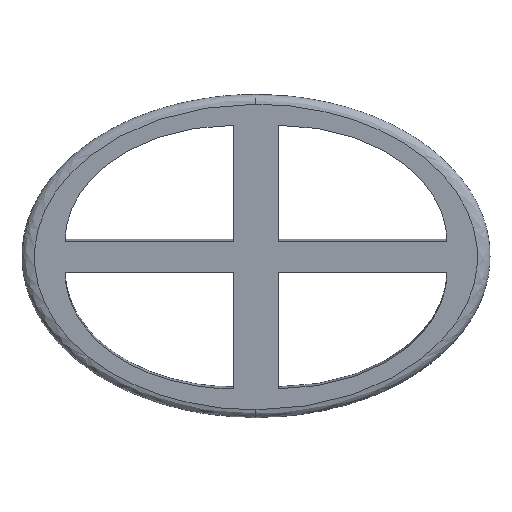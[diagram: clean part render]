
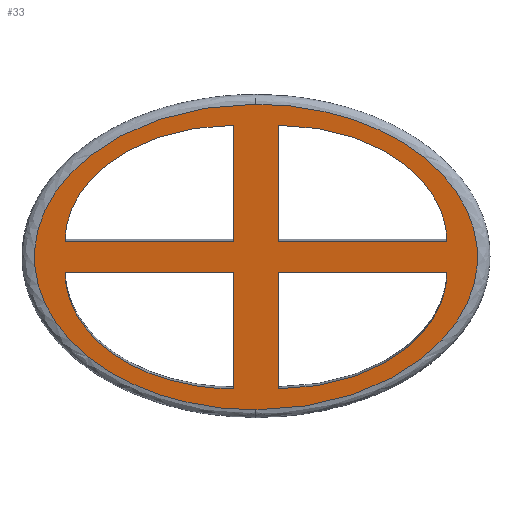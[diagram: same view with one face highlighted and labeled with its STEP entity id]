
A CAD part, front view. The second image highlights one B-rep face of the part: STEP entity #33.
In plain terms, the highlighted planar face has unit normal (-0.001, -0.994, -0.107).
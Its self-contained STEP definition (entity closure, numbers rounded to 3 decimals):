
#24=FACE_BOUND('',#70,.T.);
#25=FACE_BOUND('',#71,.T.);
#26=FACE_BOUND('',#72,.T.);
#27=FACE_BOUND('',#73,.T.);
#33=ADVANCED_FACE('',(#51,#24,#25,#26,#27),#308,.T.);
#51=FACE_OUTER_BOUND('',#69,.T.);
#69=EDGE_LOOP('',(#98,#99));
#70=EDGE_LOOP('',(#100,#101,#102));
#71=EDGE_LOOP('',(#103,#104,#105));
#72=EDGE_LOOP('',(#106,#107,#108));
#73=EDGE_LOOP('',(#109,#110,#111));
#98=ORIENTED_EDGE('',*,*,#197,.T.);
#99=ORIENTED_EDGE('',*,*,#231,.T.);
#100=ORIENTED_EDGE('',*,*,#204,.F.);
#101=ORIENTED_EDGE('',*,*,#189,.F.);
#102=ORIENTED_EDGE('',*,*,#188,.F.);
#103=ORIENTED_EDGE('',*,*,#190,.F.);
#104=ORIENTED_EDGE('',*,*,#208,.F.);
#105=ORIENTED_EDGE('',*,*,#191,.F.);
#106=ORIENTED_EDGE('',*,*,#192,.F.);
#107=ORIENTED_EDGE('',*,*,#215,.F.);
#108=ORIENTED_EDGE('',*,*,#193,.F.);
#109=ORIENTED_EDGE('',*,*,#225,.T.);
#110=ORIENTED_EDGE('',*,*,#194,.T.);
#111=ORIENTED_EDGE('',*,*,#195,.T.);
#188=EDGE_CURVE('',#279,#280,#232,.T.);
#189=EDGE_CURVE('',#280,#281,#233,.T.);
#190=EDGE_CURVE('',#283,#284,#234,.T.);
#191=EDGE_CURVE('',#284,#282,#235,.T.);
#192=EDGE_CURVE('',#286,#287,#236,.T.);
#193=EDGE_CURVE('',#287,#285,#237,.T.);
#194=EDGE_CURVE('',#288,#289,#238,.T.);
#195=EDGE_CURVE('',#289,#290,#239,.T.);
#197=EDGE_CURVE('',#303,#307,#259,.T.);
#204=EDGE_CURVE('',#281,#279,#261,.T.);
#208=EDGE_CURVE('',#282,#283,#265,.T.);
#215=EDGE_CURVE('',#285,#286,#269,.T.);
#225=EDGE_CURVE('',#290,#288,#271,.T.);
#231=EDGE_CURVE('',#307,#303,#277,.T.);
#232=B_SPLINE_CURVE_WITH_KNOTS('',1,(#1213,#1214),.UNSPECIFIED.,.F.,.F.,
(2,2),(6.283,6.783),.UNSPECIFIED.);
#233=B_SPLINE_CURVE_WITH_KNOTS('',1,(#1215,#1216),.UNSPECIFIED.,.F.,.F.,
(2,2),(6.783,7.783),.UNSPECIFIED.);
#234=B_SPLINE_CURVE_WITH_KNOTS('',1,(#1217,#1218),.UNSPECIFIED.,.F.,.F.,
(2,2),(5.142,6.142),.UNSPECIFIED.);
#235=B_SPLINE_CURVE_WITH_KNOTS('',1,(#1219,#1220),.UNSPECIFIED.,.F.,.F.,
(2,2),(6.142,6.642),.UNSPECIFIED.);
#236=B_SPLINE_CURVE_WITH_KNOTS('',1,(#1221,#1222),.UNSPECIFIED.,.F.,.F.,
(2,2),(6.142,7.142),.UNSPECIFIED.);
#237=B_SPLINE_CURVE_WITH_KNOTS('',1,(#1223,#1224),.UNSPECIFIED.,.F.,.F.,
(2,2),(7.142,7.642),.UNSPECIFIED.);
#238=B_SPLINE_CURVE_WITH_KNOTS('',1,(#1225,#1226),.UNSPECIFIED.,.F.,.F.,
(2,2),(0.,1.),.UNSPECIFIED.);
#239=B_SPLINE_CURVE_WITH_KNOTS('',1,(#1227,#1228),.UNSPECIFIED.,.F.,.F.,
(2,2),(1.,1.5),.UNSPECIFIED.);
#259=(
BOUNDED_CURVE()
B_SPLINE_CURVE(2,(#1234,#1235,#1236,#1237,#1238),.UNSPECIFIED.,.F.,.F.)
B_SPLINE_CURVE_WITH_KNOTS((3,2,3),(0.,1.571,3.142),
 .UNSPECIFIED.)
CURVE()
GEOMETRIC_REPRESENTATION_ITEM()
RATIONAL_B_SPLINE_CURVE((1.,0.707,1.,0.707,1.))
REPRESENTATION_ITEM('')
);
#261=(
BOUNDED_CURVE()
B_SPLINE_CURVE(2,(#1252,#1253,#1254),.UNSPECIFIED.,.F.,.F.)
B_SPLINE_CURVE_WITH_KNOTS((3,3),(7.783,9.354),
 .UNSPECIFIED.)
CURVE()
GEOMETRIC_REPRESENTATION_ITEM()
RATIONAL_B_SPLINE_CURVE((1.,0.707,1.))
REPRESENTATION_ITEM('')
);
#265=(
BOUNDED_CURVE()
B_SPLINE_CURVE(2,(#1262,#1263,#1264),.UNSPECIFIED.,.F.,.F.)
B_SPLINE_CURVE_WITH_KNOTS((3,3),(3.571,5.142),
 .UNSPECIFIED.)
CURVE()
GEOMETRIC_REPRESENTATION_ITEM()
RATIONAL_B_SPLINE_CURVE((1.,0.707,1.))
REPRESENTATION_ITEM('')
);
#269=(
BOUNDED_CURVE()
B_SPLINE_CURVE(2,(#1278,#1279,#1280),.UNSPECIFIED.,.F.,.F.)
B_SPLINE_CURVE_WITH_KNOTS((3,3),(4.571,6.142),
 .UNSPECIFIED.)
CURVE()
GEOMETRIC_REPRESENTATION_ITEM()
RATIONAL_B_SPLINE_CURVE((1.,0.707,1.))
REPRESENTATION_ITEM('')
);
#271=(
BOUNDED_CURVE()
B_SPLINE_CURVE(2,(#1300,#1301,#1302),.UNSPECIFIED.,.F.,.F.)
B_SPLINE_CURVE_WITH_KNOTS((3,3),(1.5,3.071),.UNSPECIFIED.)
CURVE()
GEOMETRIC_REPRESENTATION_ITEM()
RATIONAL_B_SPLINE_CURVE((1.,0.707,1.))
REPRESENTATION_ITEM('')
);
#277=(
BOUNDED_CURVE()
B_SPLINE_CURVE(2,(#1371,#1372,#1373,#1374,#1375),.UNSPECIFIED.,.F.,.F.)
B_SPLINE_CURVE_WITH_KNOTS((3,2,3),(3.142,4.712,6.283),
 .UNSPECIFIED.)
CURVE()
GEOMETRIC_REPRESENTATION_ITEM()
RATIONAL_B_SPLINE_CURVE((1.,0.707,1.,0.707,1.))
REPRESENTATION_ITEM('')
);
#279=VERTEX_POINT('',#1127);
#280=VERTEX_POINT('',#1128);
#281=VERTEX_POINT('',#1129);
#282=VERTEX_POINT('',#1130);
#283=VERTEX_POINT('',#1131);
#284=VERTEX_POINT('',#1132);
#285=VERTEX_POINT('',#1133);
#286=VERTEX_POINT('',#1134);
#287=VERTEX_POINT('',#1135);
#288=VERTEX_POINT('',#1136);
#289=VERTEX_POINT('',#1137);
#290=VERTEX_POINT('',#1138);
#303=VERTEX_POINT('',#1151);
#307=VERTEX_POINT('',#1155);
#308=PLANE('',#346);
#346=AXIS2_PLACEMENT_3D('',#552,#359,$);
#359=DIRECTION('',(-0.001,-0.994,-0.107));
#552=CARTESIAN_POINT('',(-35.975,-91.963,-15.423));
#1127=CARTESIAN_POINT('',(-3.681,-92.416,-11.589));
#1128=CARTESIAN_POINT('',(-3.681,-94.405,6.856));
#1129=CARTESIAN_POINT('',(-30.413,-94.372,6.859));
#1130=CARTESIAN_POINT('',(-3.681,-96.926,30.245));
#1131=CARTESIAN_POINT('',(-30.413,-94.905,11.803));
#1132=CARTESIAN_POINT('',(-3.681,-94.938,11.8));
#1133=CARTESIAN_POINT('',(3.485,-92.425,-11.59));
#1134=CARTESIAN_POINT('',(30.216,-94.445,6.851));
#1135=CARTESIAN_POINT('',(3.485,-94.413,6.855));
#1136=CARTESIAN_POINT('',(30.216,-94.978,11.795));
#1137=CARTESIAN_POINT('',(3.485,-94.946,11.799));
#1138=CARTESIAN_POINT('',(3.485,-96.935,30.244));
#1151=CARTESIAN_POINT('',(-0.098,-92.059,-14.942));
#1155=CARTESIAN_POINT('',(-0.098,-97.292,33.597));
#1213=CARTESIAN_POINT('',(-3.681,-92.416,-11.589));
#1214=CARTESIAN_POINT('',(-3.681,-94.405,6.856));
#1215=CARTESIAN_POINT('',(-3.681,-94.405,6.856));
#1216=CARTESIAN_POINT('',(-30.413,-94.372,6.859));
#1217=CARTESIAN_POINT('',(-30.413,-94.905,11.803));
#1218=CARTESIAN_POINT('',(-3.681,-94.938,11.8));
#1219=CARTESIAN_POINT('',(-3.681,-94.938,11.8));
#1220=CARTESIAN_POINT('',(-3.681,-96.926,30.245));
#1221=CARTESIAN_POINT('',(30.216,-94.445,6.851));
#1222=CARTESIAN_POINT('',(3.485,-94.413,6.855));
#1223=CARTESIAN_POINT('',(3.485,-94.413,6.855));
#1224=CARTESIAN_POINT('',(3.485,-92.425,-11.59));
#1225=CARTESIAN_POINT('',(30.216,-94.978,11.795));
#1226=CARTESIAN_POINT('',(3.485,-94.946,11.799));
#1227=CARTESIAN_POINT('',(3.485,-94.946,11.799));
#1228=CARTESIAN_POINT('',(3.485,-96.935,30.244));
#1234=CARTESIAN_POINT('',(-0.098,-92.059,-14.942));
#1235=CARTESIAN_POINT('',(35.075,-92.101,-14.947));
#1236=CARTESIAN_POINT('',(35.075,-94.718,9.323));
#1237=CARTESIAN_POINT('',(35.075,-97.334,33.592));
#1238=CARTESIAN_POINT('',(-0.098,-97.292,33.597));
#1252=CARTESIAN_POINT('',(-30.413,-94.372,6.859));
#1253=CARTESIAN_POINT('',(-30.413,-92.384,-11.585));
#1254=CARTESIAN_POINT('',(-3.681,-92.416,-11.589));
#1262=CARTESIAN_POINT('',(-3.681,-96.926,30.245));
#1263=CARTESIAN_POINT('',(-30.413,-96.894,30.248));
#1264=CARTESIAN_POINT('',(-30.413,-94.905,11.803));
#1278=CARTESIAN_POINT('',(3.485,-92.425,-11.59));
#1279=CARTESIAN_POINT('',(30.216,-92.457,-11.593));
#1280=CARTESIAN_POINT('',(30.216,-94.445,6.851));
#1300=CARTESIAN_POINT('',(3.485,-96.935,30.244));
#1301=CARTESIAN_POINT('',(30.216,-96.967,30.24));
#1302=CARTESIAN_POINT('',(30.216,-94.978,11.795));
#1371=CARTESIAN_POINT('',(-0.098,-97.292,33.597));
#1372=CARTESIAN_POINT('',(-35.271,-97.25,33.601));
#1373=CARTESIAN_POINT('',(-35.271,-94.633,9.332));
#1374=CARTESIAN_POINT('',(-35.271,-92.016,-14.937));
#1375=CARTESIAN_POINT('',(-0.098,-92.059,-14.942));
